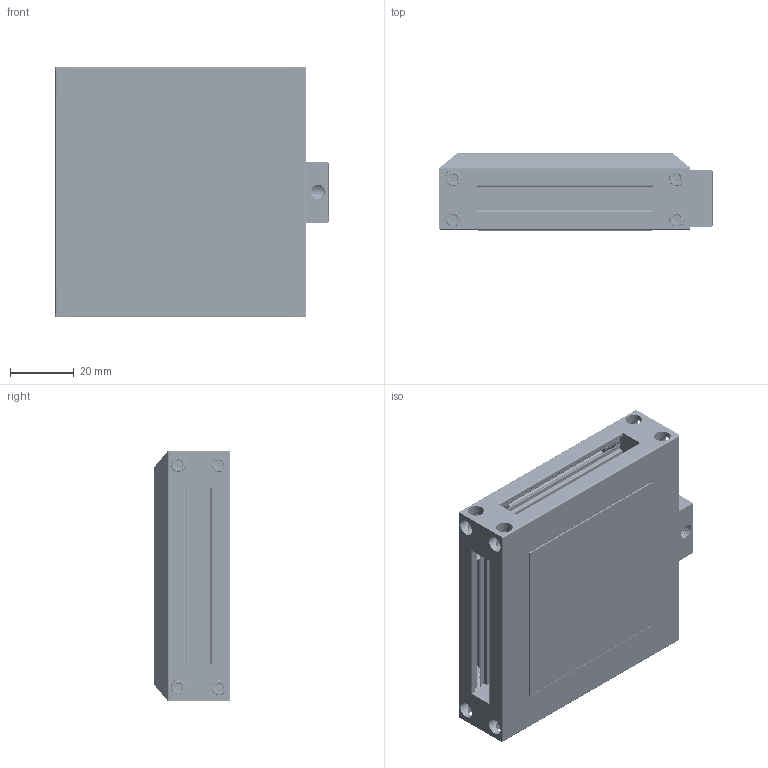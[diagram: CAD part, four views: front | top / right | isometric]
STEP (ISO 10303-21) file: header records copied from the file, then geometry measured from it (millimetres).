
FILE_DESCRIPTION (( 'STEP AP214' ), '1' );
FILE_NAME ('BL2-0202.STEP', '2024-09-10T19:22:16', ( '' ), ( '' ), 'SwSTEP 2.0', 'SolidWorks 2023', '' );
FILE_SCHEMA (( 'AUTOMOTIVE_DESIGN' ));
Length unit declared in the file: inch
Products named in the file (8): 099012-XXYY_099012-0202; 098782_098794-02; 095606_Default<As Machined>; BL2-0202; 098782_098793-02; 91251A107_91251A107; 129-01-006-XXXX_129-01-006-0202; 098787
Assembly tree (27 placements, depth 2):
  BL2-0202
    129-01-006-XXXX_129-01-006-0202
    098782_098794-02
    098782_098793-02  x3
    098787  x4
    095606_Default<As Machined>
    099012-XXYY_099012-0202
    91251A107_91251A107  x16
Bounding box: 85.51 x 24.05 x 78.59 mm (x, y, z)
Volume: 75371.4 mm3; surface area: 54173 mm2
Topology: 27 solids, 27 shells, 7027 faces, 18220 edges, 12080 vertices
Faces by surface type: plane 3590, cone 1746, cylinder 1570, torus 64, bspline 57
Entity records: 28262 total; most frequent: CARTESIAN_POINT 10902, ORIENTED_EDGE 3620, DIRECTION 3543, EDGE_CURVE 1810, AXIS2_PLACEMENT_3D 1231, VERTEX_POINT 1194, LINE 1081, VECTOR 1081
